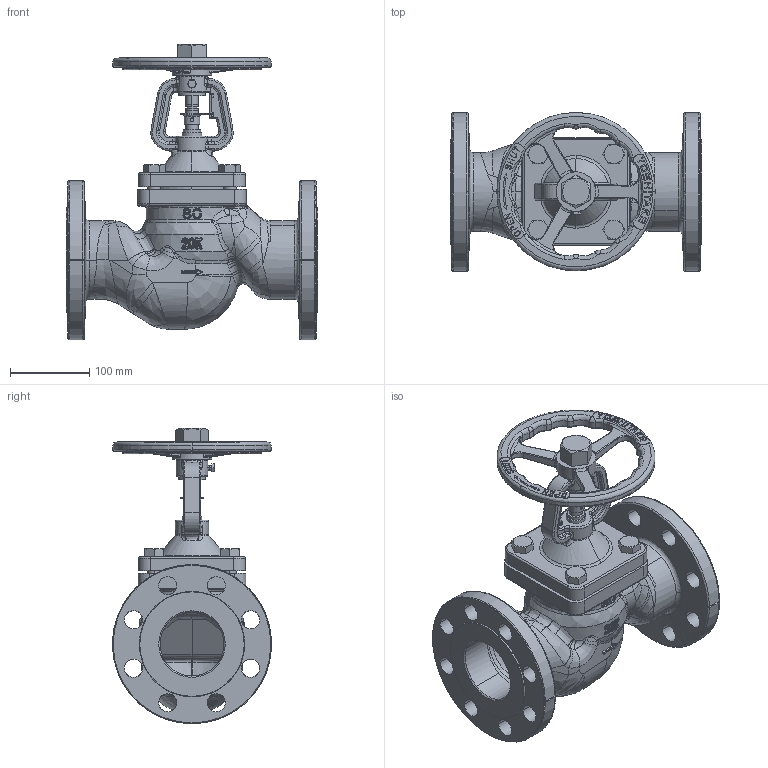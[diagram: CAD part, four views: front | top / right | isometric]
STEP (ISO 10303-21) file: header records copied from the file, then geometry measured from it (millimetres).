
FILE_DESCRIPTION( (''), '2;1');
FILE_NAME ('PC1027.9568.BSV-20F 80A_28200.stp','2025-07-28T09:48:30',(''),(''),'spGate 19.8.4 (****-****-****-****)','','');
FILE_SCHEMA (('AUTOMOTIVE_DESIGN'));
Length unit declared in the file: millimetre
Products named in the file (12): Assembly; スリーブワッシャー40-80A; スリーブ65-80A; ストッパー65-80A; グランドナット65-80A; ハンドル65-80Aφ200; ハンドルナット40-80A; CP_''_JIS B 1180 呼び径六角ボ''_(1)_17166; ボンネット80A; スピンドル80A; CP_''_JIS B 1180 呼び径六角ボルト''_17166; 本体20K 80A
Assembly tree (16 placements, depth 2):
  Assembly
    スリーブワッシャー40-80A  x2
    スリーブ65-80A
    ストッパー65-80A
    グランドナット65-80A
    ハンドル65-80Aφ200
    ハンドルナット40-80A
    CP_''_JIS B 1180 呼び径六角ボ''_(1)_17166
    ボンネット80A
    スピンドル80A  x2
    CP_''_JIS B 1180 呼び径六角ボルト''_17166  x4
    本体20K 80A
Bounding box: 318 x 200.99 x 373 mm (x, y, z)
Volume: 2990879.2 mm3; surface area: 590074.4 mm2
Topology: 16 solids, 16 shells, 2093 faces, 5266 edges, 3193 vertices
Faces by surface type: bspline 1095, cylinder 537, plane 453, sphere 8
Entity records: 138972 total; most frequent: CARTESIAN_POINT 61822, ORIENTED_EDGE 9974, COLOUR_RGB 6996, PRESENTATION_STYLE_ASSIGNMENT 6996, STYLED_ITEM 6996, DIRECTION 5288, EDGE_CURVE 4987, DRAUGHTING_PRE_DEFINED_CURVE_FONT 4987
